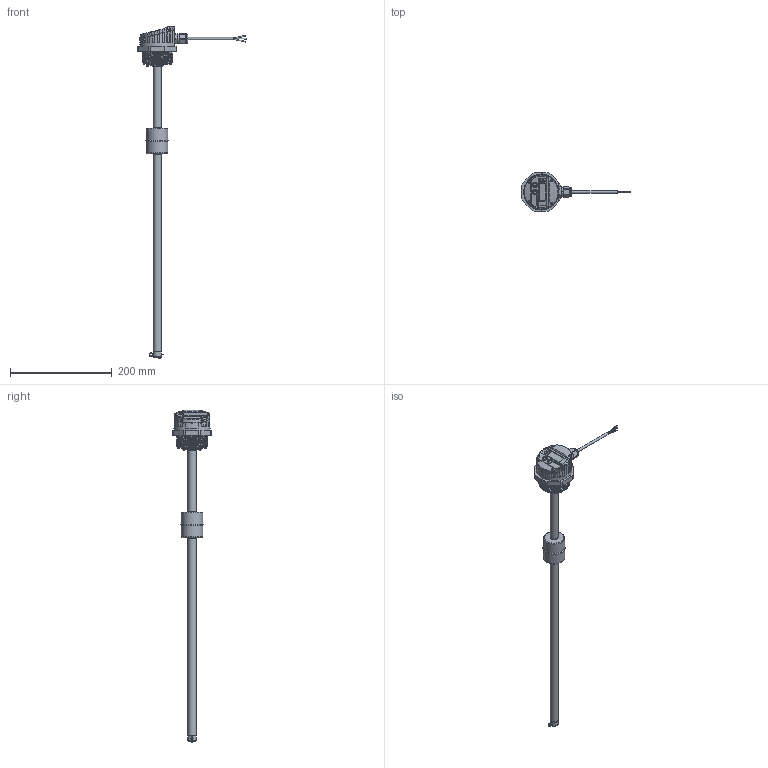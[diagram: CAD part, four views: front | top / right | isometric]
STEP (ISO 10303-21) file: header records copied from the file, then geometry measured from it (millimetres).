
FILE_DESCRIPTION(/* description */ (''),/* implementation_level */ '2;1');
FILE_NAME(/* name */ '2..3_A_1-LVL-N - mit 2zoll Kopf und VA Schwimmer.stp',/* time_stamp */ '2020-02-26T13:54:24+01:00',/* author */ (''),/* organization */ (''),/* preprocessor_version */ 'ST-DEVELOPER v16',/* originating_system */ 'SIEMENS PLM Software NX 11.0',/* authorisation */ '');
FILE_SCHEMA (('AP203_CONFIGURATION_CONTROLLED_3D_DESIGN_OF_MECHANICAL_PARTS_AND_ASSEMBLIES_MIM_LF { 1 0 10303 403 2 1 2}'));
Products named in the file (1): hi2n0B9C9C60aoyh
Bounding box: 213 x 76 x 652.88 mm (x, y, z)
Volume: 205933.9 mm3; surface area: 128062.2 mm2
Topology: 26 solids, 35 shells, 1370 faces, 3533 edges, 2280 vertices
Faces by surface type: plane 550, bspline 293, cylinder 255, extrusion 108, cone 83, torus 53, sphere 28
Full cylindrical faces by diameter (mm): 1.158 x1, 2.05 x32, 2.26 x4, 2.7 x4, 4.2 x1, 4.5 x4, 5 x1, 5.5 x1, 8.64 x1, 9 x2, 10 x1, 10.2 x1, 13 x2, 15 x2, 15.9 x1, 16 x6, 16.7 x1, 18 x1, 26.3 x1, 41.4 x2, 42 x2, 55.5 x1, 59.61 x8, 67.5 x1, 74 x1
Entity records: 71910 total; most frequent: CARTESIAN_POINT 42887, ORIENTED_EDGE 6448, DIRECTION 5033, EDGE_CURVE 3224, VERTEX_POINT 2139, AXIS2_PLACEMENT_3D 1926, EDGE_LOOP 1535, ADVANCED_FACE 1326
